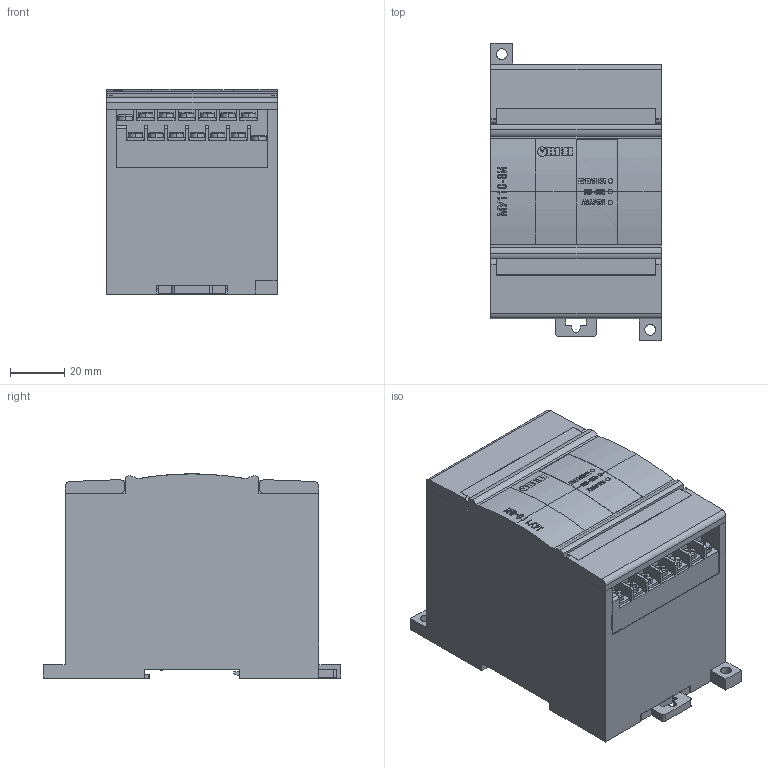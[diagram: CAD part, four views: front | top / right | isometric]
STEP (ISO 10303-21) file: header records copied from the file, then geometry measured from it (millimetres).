
FILE_DESCRIPTION (( 'STEP AP214' ), '1' );
FILE_NAME ('3D Ìîäåëü ÌÂ110-8È.STEP', '2015-12-02T10:32:18', ( '' ), ( '' ), 'SwSTEP 2.0', 'SolidWorks 2013', '' );
FILE_SCHEMA (( 'AUTOMOTIVE_DESIGN' ));
Length unit declared in the file: millimetre
Products named in the file (6): Ôèêñàòîð òèï2; Ïàíåëü ëèöåâàÿ ÌÂ110-24.8ÀÑ; Êðûøêà ïðîçðà÷íàÿ ÌÂ110; Ðîçåòêà ÌÕ - 12; Êîðïóñ ÌÓ110-8È; 3D Ìîäåëü ÌÂ110-8È
Assembly tree (7 placements, depth 2):
  3D Ìîäåëü ÌÂ110-8È
    Êîðïóñ ÌÓ110-8È
    Ðîçåòêà ÌÕ - 12  x2
    Êðûøêà ïðîçðà÷íàÿ ÌÂ110  x2
    Ïàíåëü ëèöåâàÿ ÌÂ110-24.8ÀÑ
    Ôèêñàòîð òèï2
Bounding box: 63 x 110 x 75.6 mm (x, y, z)
Volume: 413398.6 mm3; surface area: 63131.5 mm2
Topology: 36 solids, 36 shells, 1447 faces, 3754 edges, 2478 vertices
Faces by surface type: plane 916, cylinder 220, bspline 151, cone 104, torus 56
Entity records: 49239 total; most frequent: CARTESIAN_POINT 15636, ORIENTED_EDGE 5444, DIRECTION 4443, EDGE_CURVE 2722, VERTEX_POINT 1802, VECTOR 1507, LINE 1507, AXIS2_PLACEMENT_3D 1468
